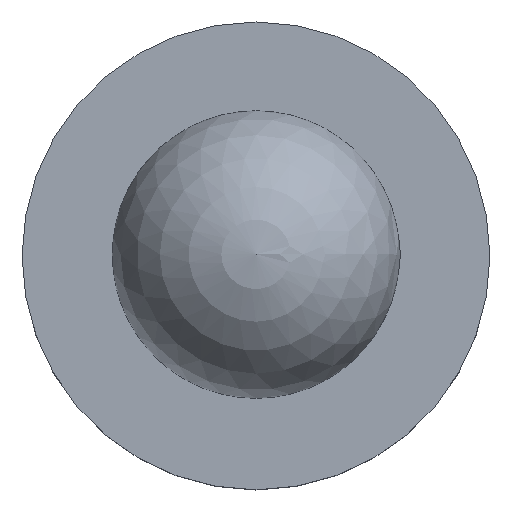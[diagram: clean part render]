
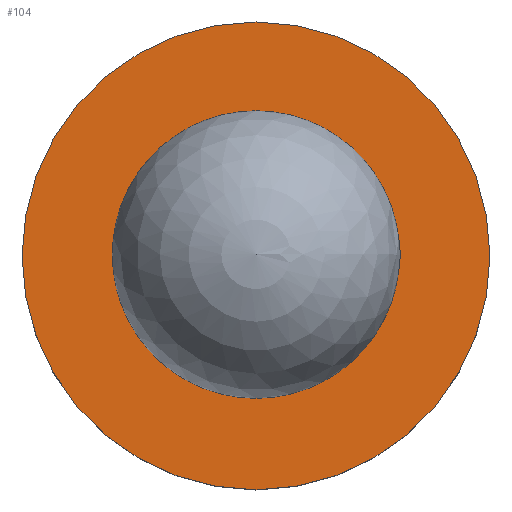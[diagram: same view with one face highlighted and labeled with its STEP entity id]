
A CAD part, top view. The second image highlights one B-rep face of the part: STEP entity #104.
In plain terms, the highlighted planar face has unit normal (0, 0, 1).
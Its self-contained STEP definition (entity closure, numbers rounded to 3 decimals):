
#83 = EDGE_CURVE('',#84,#84,#86,.T.);
#84 = VERTEX_POINT('',#85);
#85 = CARTESIAN_POINT('',(6.3,0.,88.));
#86 = CIRCLE('',#87,6.3);
#87 = AXIS2_PLACEMENT_3D('',#88,#89,#90);
#88 = CARTESIAN_POINT('',(0.,0.,88.));
#89 = DIRECTION('',(0.,0.,1.));
#90 = DIRECTION('',(1.,0.,-0.));
#104 = ADVANCED_FACE('',(#105,#108),#119,.T.);
#105 = FACE_BOUND('',#106,.T.);
#106 = EDGE_LOOP('',(#107));
#107 = ORIENTED_EDGE('',*,*,#83,.T.);
#108 = FACE_BOUND('',#109,.T.);
#109 = EDGE_LOOP('',(#110));
#110 = ORIENTED_EDGE('',*,*,#111,.F.);
#111 = EDGE_CURVE('',#112,#112,#114,.T.);
#112 = VERTEX_POINT('',#113);
#113 = CARTESIAN_POINT('',(1.8,0.,88.));
#114 = CIRCLE('',#115,1.8);
#115 = AXIS2_PLACEMENT_3D('',#116,#117,#118);
#116 = CARTESIAN_POINT('',(0.,0.,88.));
#117 = DIRECTION('',(0.,0.,1.));
#118 = DIRECTION('',(1.,0.,-0.));
#119 = PLANE('',#120);
#120 = AXIS2_PLACEMENT_3D('',#121,#122,#123);
#121 = CARTESIAN_POINT('',(0.,0.,88.));
#122 = DIRECTION('',(0.,0.,1.));
#123 = DIRECTION('',(1.,0.,-0.));
